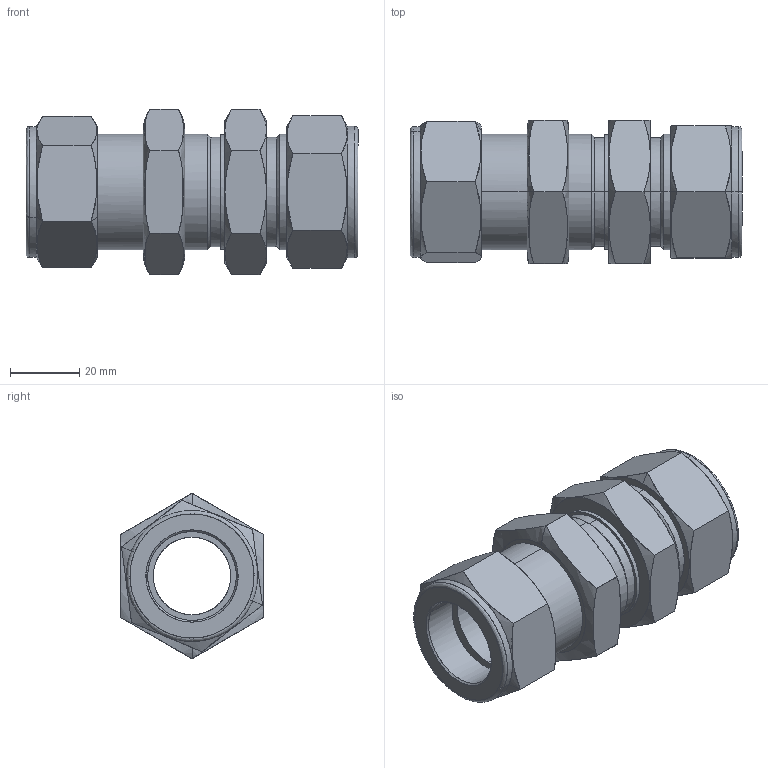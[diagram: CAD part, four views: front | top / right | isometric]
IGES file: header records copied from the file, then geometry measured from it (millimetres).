
Start section: Comment
Global section: file name: SBHU-16.igs; native system:  By UGS Corp.; preprocessor: XPlus GENERIC/IGES 3.0; author: Author; organization: Title; date: 20100528.112617; units: millimetre
Bounding box: 95.75 x 41.3 x 47.69 mm (x, y, z)
Surface area: 31212 mm2 (no closed solid volume)
Topology: 0 solids, 0 shells, 132 faces, 578 edges, 578 vertices
Faces by surface type: bspline 132
